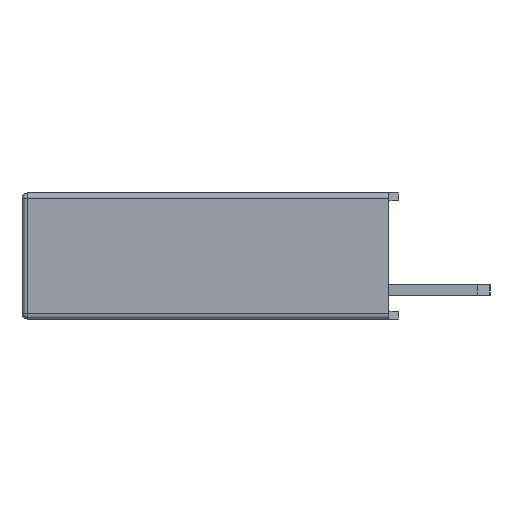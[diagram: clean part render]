
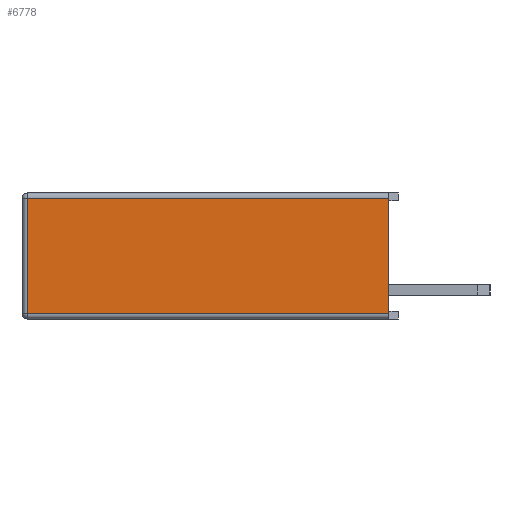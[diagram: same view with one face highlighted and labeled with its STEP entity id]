
A CAD part, left-side view. The second image highlights one B-rep face of the part: STEP entity #6778.
In plain terms, the highlighted planar face has unit normal (-1, 0, 0).
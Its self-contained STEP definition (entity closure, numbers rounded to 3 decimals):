
#5697 = PLANE('',#5698);
#5698 = AXIS2_PLACEMENT_3D('',#5699,#5700,#5701);
#5699 = CARTESIAN_POINT('',(11.25,-11.665,4.14));
#5700 = DIRECTION('',(0.,-1.,0.));
#5701 = DIRECTION('',(0.,0.,1.));
#5847 = VERTEX_POINT('',#5848);
#5848 = CARTESIAN_POINT('',(-2.7,-11.665,3.94));
#5863 = CYLINDRICAL_SURFACE('',#5864,0.2);
#5864 = AXIS2_PLACEMENT_3D('',#5865,#5866,#5867);
#5865 = CARTESIAN_POINT('',(-2.5,-4.415,3.94));
#5866 = DIRECTION('',(0.,1.,0.));
#5867 = DIRECTION('',(0.,0.,-1.));
#5875 = EDGE_CURVE('',#5847,#5876,#5878,.T.);
#5876 = VERTEX_POINT('',#5877);
#5877 = CARTESIAN_POINT('',(-2.7,-11.665,-0.65));
#5878 = SURFACE_CURVE('',#5879,(#5883,#5890),.PCURVE_S1.);
#5879 = LINE('',#5880,#5881);
#5880 = CARTESIAN_POINT('',(-2.7,-11.665,4.14));
#5881 = VECTOR('',#5882,1.);
#5882 = DIRECTION('',(0.,0.,-1.));
#5883 = PCURVE('',#5697,#5884);
#5884 = DEFINITIONAL_REPRESENTATION('',(#5885),#5889);
#5885 = LINE('',#5886,#5887);
#5886 = CARTESIAN_POINT('',(0.,13.95));
#5887 = VECTOR('',#5888,1.);
#5888 = DIRECTION('',(-1.,0.));
#5889 = ( GEOMETRIC_REPRESENTATION_CONTEXT(2) 
PARAMETRIC_REPRESENTATION_CONTEXT() REPRESENTATION_CONTEXT('2D SPACE',''
  ) );
#5890 = PCURVE('',#5891,#5896);
#5891 = PLANE('',#5892);
#5892 = AXIS2_PLACEMENT_3D('',#5893,#5894,#5895);
#5893 = CARTESIAN_POINT('',(-2.7,-4.415,4.14));
#5894 = DIRECTION('',(-1.,0.,0.));
#5895 = DIRECTION('',(0.,0.,1.));
#5896 = DEFINITIONAL_REPRESENTATION('',(#5897),#5901);
#5897 = LINE('',#5898,#5899);
#5898 = CARTESIAN_POINT('',(0.,-7.25));
#5899 = VECTOR('',#5900,1.);
#5900 = DIRECTION('',(-1.,0.));
#5901 = ( GEOMETRIC_REPRESENTATION_CONTEXT(2) 
PARAMETRIC_REPRESENTATION_CONTEXT() REPRESENTATION_CONTEXT('2D SPACE',''
  ) );
#5920 = CYLINDRICAL_SURFACE('',#5921,0.2);
#5921 = AXIS2_PLACEMENT_3D('',#5922,#5923,#5924);
#5922 = CARTESIAN_POINT('',(-2.5,-4.415,-0.65));
#5923 = DIRECTION('',(0.,-1.,0.));
#5924 = DIRECTION('',(0.,0.,1.));
#6422 = CYLINDRICAL_SURFACE('',#6423,0.2);
#6423 = AXIS2_PLACEMENT_3D('',#6424,#6425,#6426);
#6424 = CARTESIAN_POINT('',(-2.5,2.635,4.14));
#6425 = DIRECTION('',(0.,0.,-1.));
#6426 = DIRECTION('',(-1.,0.,0.));
#6778 = ADVANCED_FACE('',(#6779),#5891,.T.);
#6779 = FACE_BOUND('',#6780,.T.);
#6780 = EDGE_LOOP('',(#6781,#6806,#6827,#6828));
#6781 = ORIENTED_EDGE('',*,*,#6782,.T.);
#6782 = EDGE_CURVE('',#6783,#6785,#6787,.T.);
#6783 = VERTEX_POINT('',#6784);
#6784 = CARTESIAN_POINT('',(-2.7,2.635,3.94));
#6785 = VERTEX_POINT('',#6786);
#6786 = CARTESIAN_POINT('',(-2.7,2.635,-0.65));
#6787 = SURFACE_CURVE('',#6788,(#6792,#6799),.PCURVE_S1.);
#6788 = LINE('',#6789,#6790);
#6789 = CARTESIAN_POINT('',(-2.7,2.635,4.14));
#6790 = VECTOR('',#6791,1.);
#6791 = DIRECTION('',(0.,0.,-1.));
#6792 = PCURVE('',#5891,#6793);
#6793 = DEFINITIONAL_REPRESENTATION('',(#6794),#6798);
#6794 = LINE('',#6795,#6796);
#6795 = CARTESIAN_POINT('',(0.,7.05));
#6796 = VECTOR('',#6797,1.);
#6797 = DIRECTION('',(-1.,0.));
#6798 = ( GEOMETRIC_REPRESENTATION_CONTEXT(2) 
PARAMETRIC_REPRESENTATION_CONTEXT() REPRESENTATION_CONTEXT('2D SPACE',''
  ) );
#6799 = PCURVE('',#6422,#6800);
#6800 = DEFINITIONAL_REPRESENTATION('',(#6801),#6805);
#6801 = LINE('',#6802,#6803);
#6802 = CARTESIAN_POINT('',(0.,0.));
#6803 = VECTOR('',#6804,1.);
#6804 = DIRECTION('',(0.,1.));
#6805 = ( GEOMETRIC_REPRESENTATION_CONTEXT(2) 
PARAMETRIC_REPRESENTATION_CONTEXT() REPRESENTATION_CONTEXT('2D SPACE',''
  ) );
#6806 = ORIENTED_EDGE('',*,*,#6807,.T.);
#6807 = EDGE_CURVE('',#6785,#5876,#6808,.T.);
#6808 = SURFACE_CURVE('',#6809,(#6813,#6820),.PCURVE_S1.);
#6809 = LINE('',#6810,#6811);
#6810 = CARTESIAN_POINT('',(-2.7,-4.415,-0.65));
#6811 = VECTOR('',#6812,1.);
#6812 = DIRECTION('',(0.,-1.,0.));
#6813 = PCURVE('',#5891,#6814);
#6814 = DEFINITIONAL_REPRESENTATION('',(#6815),#6819);
#6815 = LINE('',#6816,#6817);
#6816 = CARTESIAN_POINT('',(-4.79,0.));
#6817 = VECTOR('',#6818,1.);
#6818 = DIRECTION('',(0.,-1.));
#6819 = ( GEOMETRIC_REPRESENTATION_CONTEXT(2) 
PARAMETRIC_REPRESENTATION_CONTEXT() REPRESENTATION_CONTEXT('2D SPACE',''
  ) );
#6820 = PCURVE('',#5920,#6821);
#6821 = DEFINITIONAL_REPRESENTATION('',(#6822),#6826);
#6822 = LINE('',#6823,#6824);
#6823 = CARTESIAN_POINT('',(1.571,0.));
#6824 = VECTOR('',#6825,1.);
#6825 = DIRECTION('',(0.,1.));
#6826 = ( GEOMETRIC_REPRESENTATION_CONTEXT(2) 
PARAMETRIC_REPRESENTATION_CONTEXT() REPRESENTATION_CONTEXT('2D SPACE',''
  ) );
#6827 = ORIENTED_EDGE('',*,*,#5875,.F.);
#6828 = ORIENTED_EDGE('',*,*,#6829,.T.);
#6829 = EDGE_CURVE('',#5847,#6783,#6830,.T.);
#6830 = SURFACE_CURVE('',#6831,(#6835,#6842),.PCURVE_S1.);
#6831 = LINE('',#6832,#6833);
#6832 = CARTESIAN_POINT('',(-2.7,-4.415,3.94));
#6833 = VECTOR('',#6834,1.);
#6834 = DIRECTION('',(0.,1.,0.));
#6835 = PCURVE('',#5891,#6836);
#6836 = DEFINITIONAL_REPRESENTATION('',(#6837),#6841);
#6837 = LINE('',#6838,#6839);
#6838 = CARTESIAN_POINT('',(-0.2,0.));
#6839 = VECTOR('',#6840,1.);
#6840 = DIRECTION('',(0.,1.));
#6841 = ( GEOMETRIC_REPRESENTATION_CONTEXT(2) 
PARAMETRIC_REPRESENTATION_CONTEXT() REPRESENTATION_CONTEXT('2D SPACE',''
  ) );
#6842 = PCURVE('',#5863,#6843);
#6843 = DEFINITIONAL_REPRESENTATION('',(#6844),#6848);
#6844 = LINE('',#6845,#6846);
#6845 = CARTESIAN_POINT('',(1.571,0.));
#6846 = VECTOR('',#6847,1.);
#6847 = DIRECTION('',(0.,1.));
#6848 = ( GEOMETRIC_REPRESENTATION_CONTEXT(2) 
PARAMETRIC_REPRESENTATION_CONTEXT() REPRESENTATION_CONTEXT('2D SPACE',''
  ) );
